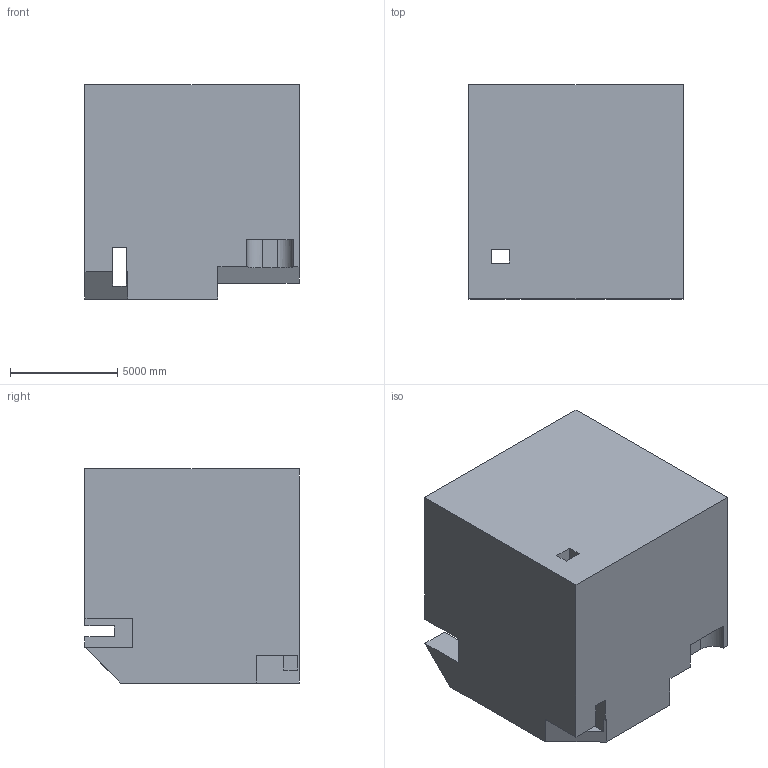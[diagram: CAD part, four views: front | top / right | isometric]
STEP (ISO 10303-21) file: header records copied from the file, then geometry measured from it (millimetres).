
FILE_DESCRIPTION (( 'STEP AP203' ), '1' );
FILE_NAME ('85.STEP', '2022-08-30T14:28:57', ( 'user' ), ( '' ), 'SwSTEP 2.0', 'SolidWorks 2021', '' );
FILE_SCHEMA (( 'CONFIG_CONTROL_DESIGN' ));
Length unit declared in the file: centimetre
Products named in the file (1): 85
Bounding box: 10000 x 10000 x 10000 mm (x, y, z)
Volume: 906216183286 mm3; surface area: 701429250 mm2
Topology: 1 solids, 1 shells, 39 faces, 120 edges, 80 vertices
Faces by surface type: plane 37, cylinder 2
Entity records: 1405 total; most frequent: CARTESIAN_POINT 246, ORIENTED_EDGE 240, DIRECTION 200, EDGE_CURVE 120, VECTOR 116, LINE 116, VERTEX_POINT 80, EDGE_LOOP 42
